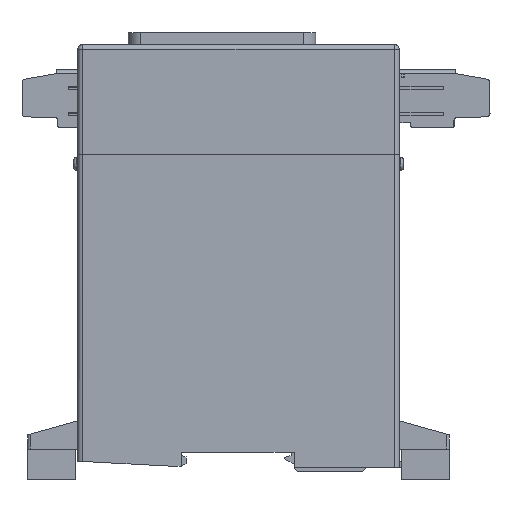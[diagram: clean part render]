
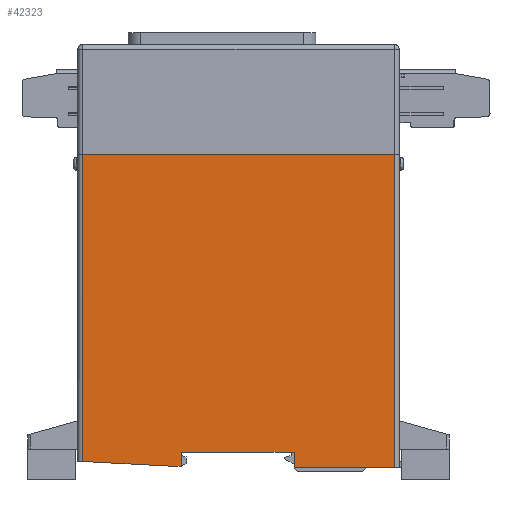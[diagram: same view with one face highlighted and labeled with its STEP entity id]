
A CAD part, front view. The second image highlights one B-rep face of the part: STEP entity #42323.
In plain terms, the highlighted planar face has unit normal (0, -1, 0) as drawn and (1, 0, 0) by its records, which use the part's own axes.
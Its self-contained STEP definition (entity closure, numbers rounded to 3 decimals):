
#2375=PLANE('',#45124);
#4030=FACE_OUTER_BOUND('',#6383,.T.);
#6383=EDGE_LOOP('',(#33542,#33543,#33544,#33545,#33546,#33547,#33548,#33549,
#33550));
#9844=LINE('',#63888,#14213);
#9879=LINE('',#63968,#14248);
#10079=LINE('',#64413,#14448);
#10121=LINE('',#64489,#14490);
#10154=LINE('',#64551,#14523);
#10166=LINE('',#64587,#14535);
#10167=LINE('',#64589,#14536);
#10168=LINE('',#64591,#14537);
#10169=LINE('',#64592,#14538);
#14213=VECTOR('',#51861,1.);
#14248=VECTOR('',#51922,1.);
#14448=VECTOR('',#52306,1.);
#14490=VECTOR('',#52378,1.);
#14523=VECTOR('',#52437,1.);
#14535=VECTOR('',#52477,1.);
#14536=VECTOR('',#52478,1.);
#14537=VECTOR('',#52479,1.);
#14538=VECTOR('',#52480,1.);
#19637=VERTEX_POINT('',#63854);
#19653=VERTEX_POINT('',#63886);
#19685=VERTEX_POINT('',#63967);
#19837=VERTEX_POINT('',#64410);
#19838=VERTEX_POINT('',#64412);
#19857=VERTEX_POINT('',#64487);
#19883=VERTEX_POINT('',#64586);
#19884=VERTEX_POINT('',#64588);
#19885=VERTEX_POINT('',#64590);
#24546=EDGE_CURVE('',#19637,#19653,#9844,.T.);
#24584=EDGE_CURVE('',#19637,#19685,#9879,.T.);
#24803=EDGE_CURVE('',#19838,#19837,#10079,.T.);
#24845=EDGE_CURVE('',#19837,#19857,#10121,.T.);
#24878=EDGE_CURVE('',#19838,#19653,#10154,.T.);
#24896=EDGE_CURVE('',#19883,#19685,#10166,.T.);
#24897=EDGE_CURVE('',#19857,#19884,#10167,.T.);
#24898=EDGE_CURVE('',#19885,#19884,#10168,.T.);
#24899=EDGE_CURVE('',#19883,#19885,#10169,.T.);
#33542=ORIENTED_EDGE('',*,*,#24896,.T.);
#33543=ORIENTED_EDGE('',*,*,#24584,.F.);
#33544=ORIENTED_EDGE('',*,*,#24546,.T.);
#33545=ORIENTED_EDGE('',*,*,#24878,.F.);
#33546=ORIENTED_EDGE('',*,*,#24803,.T.);
#33547=ORIENTED_EDGE('',*,*,#24845,.T.);
#33548=ORIENTED_EDGE('',*,*,#24897,.T.);
#33549=ORIENTED_EDGE('',*,*,#24898,.F.);
#33550=ORIENTED_EDGE('',*,*,#24899,.F.);
#42323=ADVANCED_FACE('',(#4030),#2375,.T.);
#45124=AXIS2_PLACEMENT_3D('',#64585,#52475,#52476);
#51861=DIRECTION('',(0.,1.,0.));
#51922=DIRECTION('',(0.,-0.999,0.053));
#52306=DIRECTION('',(0.,1.,0.));
#52378=DIRECTION('',(0.,0.,-1.));
#52437=DIRECTION('',(0.,0.,-1.));
#52475=DIRECTION('center_axis',(1.,0.,0.));
#52476=DIRECTION('ref_axis',(0.,1.,0.));
#52477=DIRECTION('',(0.,0.,-1.));
#52478=DIRECTION('',(0.,1.,0.));
#52479=DIRECTION('',(0.,0.,-1.));
#52480=DIRECTION('',(0.,1.,0.));
#63854=CARTESIAN_POINT('',(86.32,-2.787,-7.));
#63886=CARTESIAN_POINT('',(86.32,-0.287,-7.));
#63888=CARTESIAN_POINT('',(86.32,0.,-7.));
#63967=CARTESIAN_POINT('',(86.32,-31.787,-5.446));
#63968=CARTESIAN_POINT('',(86.32,0.,-7.149));
#64410=CARTESIAN_POINT('',(86.32,35.713,-2.5));
#64412=CARTESIAN_POINT('',(86.32,-0.287,-2.5));
#64413=CARTESIAN_POINT('',(86.32,0.,-2.5));
#64487=CARTESIAN_POINT('',(86.32,35.713,-7.5));
#64489=CARTESIAN_POINT('',(86.32,35.713,-2.5));
#64551=CARTESIAN_POINT('',(86.32,-0.287,0.));
#64585=CARTESIAN_POINT('Origin',(86.32,-237.707,-106.013));
#64586=CARTESIAN_POINT('',(86.32,-31.787,92.5));
#64587=CARTESIAN_POINT('',(86.32,-31.787,0.));
#64588=CARTESIAN_POINT('',(86.32,67.713,-7.5));
#64589=CARTESIAN_POINT('',(86.32,-33.287,-7.5));
#64590=CARTESIAN_POINT('',(86.32,67.713,92.5));
#64591=CARTESIAN_POINT('',(86.32,67.713,0.));
#64592=CARTESIAN_POINT('',(86.32,-33.287,92.5));
